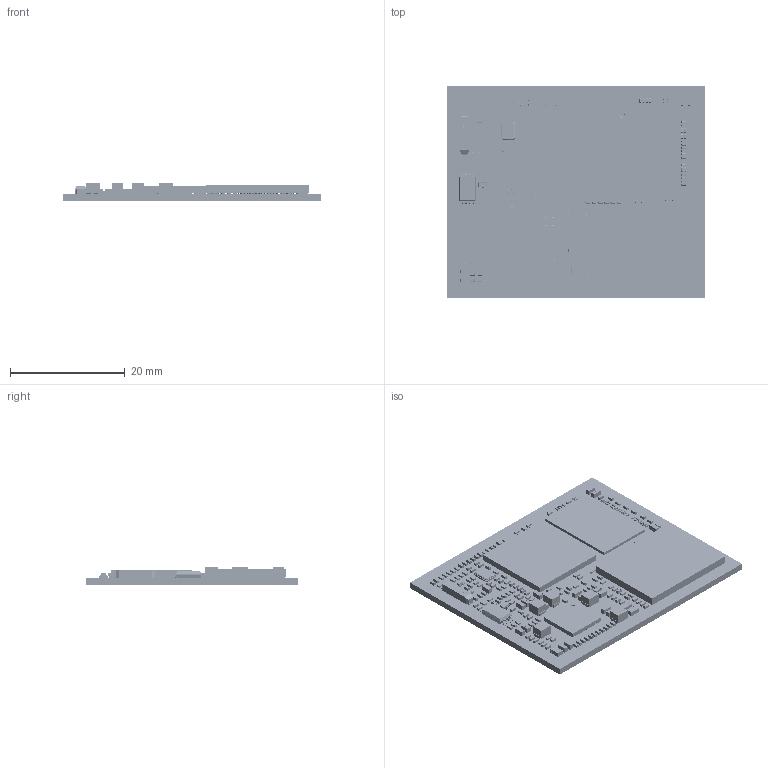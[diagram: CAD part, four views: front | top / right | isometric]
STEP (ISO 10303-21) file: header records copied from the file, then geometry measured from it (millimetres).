
FILE_DESCRIPTION(/* description */ ('PCB Design'),/* implementation_level */ '2;1');
FILE_NAME(/* name */ 'CM3326S_3D',/* time_stamp */ '2023-04-13T11:37:23+08:00',/* author */ (''),/* organization */ (''),/* preprocessor_version */ 'ST-DEVELOPER v16',/* originating_system */ 'allegro_17.2S053',/* authorisation */ '');
FILE_SCHEMA (('AUTOMOTIVE_DESIGN { 1 0 10303 214 3 1 1 }'));
Products named in the file (433): CM3326S_RV1; BOARD_OUTLINE; COMPONENTS; EMI_CLIP; TP_0R70; CM3326_156PIN_PITCH1MM_45X37MM; C0201; SOT-523; C0402; C0805; LED0603; L0603; TSSOP8_3R10X3R10X1R10; IND_252010; CRY2_6R90X1R40X1R30; CRY4_3R20X2R50X0R80; QFN68_7R00X7R00X0R80_T; BGA169_18R00X14R00X1R20_2L; R0402; BGA200_15R00X10R00X0R90; BGA418_14R00X14R00X1R24; C0603; User Library-User Library-0201_Cap; 9374BE2C-ED46-4905-B2DF-BD476E2613E9; 0; SC0402; User Library-C0805-2; Fillet; Pocket002; User Library-LED_0603_R; Pocket001; Pad004; Pad; User Library-INDC1608X___; 4E4B9721-5512-4EAC-BC09-40BE9565364F; User Library-INDM2520X190N; User Library-CSYTAL-MC146; 3225-1; Pin_Shape; 6073041616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
Assembly tree (987 placements, depth 7):
  CM3326S_RV1
    BOARD_OUTLINE
    COMPONENTS
      EMI_CLIP  x8
      TP_0R70  x6
      CM3326_156PIN_PITCH1MM_45X37MM
      C0201  x35
        User Library-User Library-0201_Cap
      SOT-523
        9374BE2C-ED46-4905-B2DF-BD476E2613E9
      C0402  x94
        0
        SC0402
      C0805  x3
        User Library-C0805-2
      LED0603
        User Library-LED_0603_R
          Pocket002
          Pad004
          Fillet
          Pocket001
          Pad
      L0603  x2
        User Library-INDC1608X___
      TSSOP8_3R10X3R10X1R10
        4E4B9721-5512-4EAC-BC09-40BE9565364F
      IND_252010  x5
        User Library-INDM2520X190N
      CRY2_6R90X1R40X1R30
        User Library-CSYTAL-MC146
      CRY4_3R20X2R50X0R80
        0
        3225-1
      QFN68_7R00X7R00X0R80_T
        User Library-QFN35P700X700X80_HS-69N
          6073041616
            Open_CASCADE_STEP_translator_6.8_1.1
            Body
              Open_CASCADE_STEP_translator_6.8_1.2.1
            Thermal_Shape
            Pin_Shape  x68
              Open_CASCADE_STEP_translator_6.8_1.4.1
      BGA169_18R00X14R00X1R20_2L
        User Library-VFBGA169-14x18x1.4
          Cube
          Solid069
          Solid070
          Solid071
          Solid072
          Solid073
          Solid036
          Solid047
          Solid019
          Solid043
          Solid009
          Solid017
          Solid018
          Solid067
          Solid068
          Solid003
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Bounding box: 45 x 37 x 2.99 mm (x, y, z)
Volume: 850.7 mm3; surface area: 10383.5 mm2
Topology: 1399 solids, 1795 shells, 28042 faces, 63619 edges, 37664 vertices
Faces by surface type: bspline 21032, plane 5342, cylinder 1036, sphere 608, torus 24
Entity records: 87950 total; most frequent: CARTESIAN_POINT 29690, ORIENTED_EDGE 6838, DIRECTION 6795, EDGE_CURVE 3430, AXIS2_PLACEMENT_3D 2998, VERTEX_POINT 2461, EDGE_LOOP 1891, FACE_OUTER_BOUND 1847
